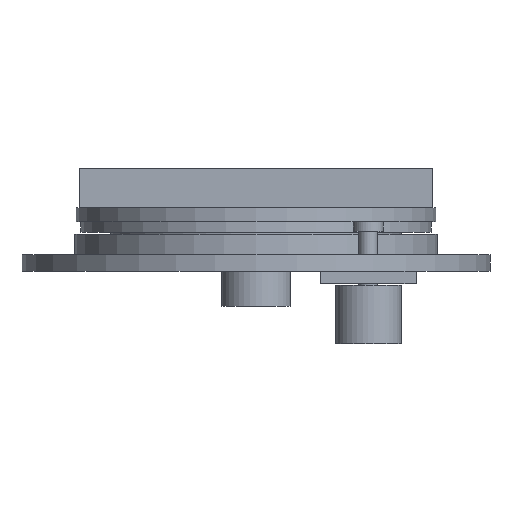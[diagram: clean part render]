
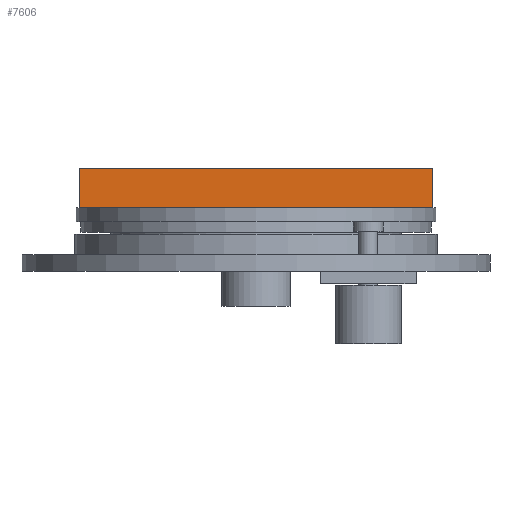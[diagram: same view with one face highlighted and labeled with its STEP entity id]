
A CAD part, front view. The second image highlights one B-rep face of the part: STEP entity #7606.
In plain terms, the highlighted planar face has unit normal (0, -1, 0).
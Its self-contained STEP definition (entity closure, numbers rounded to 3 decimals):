
#7490 = EDGE_CURVE('',#7491,#7493,#7495,.T.);
#7491 = VERTEX_POINT('',#7492);
#7492 = CARTESIAN_POINT('',(-189.,-125.,-21.));
#7493 = VERTEX_POINT('',#7494);
#7494 = CARTESIAN_POINT('',(-189.,-125.,21.));
#7495 = SURFACE_CURVE('',#7496,(#7500,#7512),.PCURVE_S1.);
#7496 = LINE('',#7497,#7498);
#7497 = CARTESIAN_POINT('',(-189.,-125.,-21.));
#7498 = VECTOR('',#7499,1.);
#7499 = DIRECTION('',(0.,0.,1.));
#7500 = PCURVE('',#7501,#7506);
#7501 = PLANE('',#7502);
#7502 = AXIS2_PLACEMENT_3D('',#7503,#7504,#7505);
#7503 = CARTESIAN_POINT('',(-189.,-125.,-21.));
#7504 = DIRECTION('',(1.,0.,0.));
#7505 = DIRECTION('',(0.,0.,1.));
#7506 = DEFINITIONAL_REPRESENTATION('',(#7507),#7511);
#7507 = LINE('',#7508,#7509);
#7508 = CARTESIAN_POINT('',(0.,0.));
#7509 = VECTOR('',#7510,1.);
#7510 = DIRECTION('',(1.,0.));
#7511 = ( GEOMETRIC_REPRESENTATION_CONTEXT(2) 
PARAMETRIC_REPRESENTATION_CONTEXT() REPRESENTATION_CONTEXT('2D SPACE',''
  ) );
#7512 = PCURVE('',#7513,#7518);
#7513 = PLANE('',#7514);
#7514 = AXIS2_PLACEMENT_3D('',#7515,#7516,#7517);
#7515 = CARTESIAN_POINT('',(-189.,-125.,-21.));
#7516 = DIRECTION('',(0.,1.,0.));
#7517 = DIRECTION('',(0.,-0.,1.));
#7518 = DEFINITIONAL_REPRESENTATION('',(#7519),#7523);
#7519 = LINE('',#7520,#7521);
#7520 = CARTESIAN_POINT('',(0.,0.));
#7521 = VECTOR('',#7522,1.);
#7522 = DIRECTION('',(1.,0.));
#7523 = ( GEOMETRIC_REPRESENTATION_CONTEXT(2) 
PARAMETRIC_REPRESENTATION_CONTEXT() REPRESENTATION_CONTEXT('2D SPACE',''
  ) );
#7541 = PLANE('',#7542);
#7542 = AXIS2_PLACEMENT_3D('',#7543,#7544,#7545);
#7543 = CARTESIAN_POINT('',(-189.,-125.,-21.));
#7544 = DIRECTION('',(0.,0.,1.));
#7545 = DIRECTION('',(1.,0.,-0.));
#7595 = PLANE('',#7596);
#7596 = AXIS2_PLACEMENT_3D('',#7597,#7598,#7599);
#7597 = CARTESIAN_POINT('',(-189.,-125.,21.));
#7598 = DIRECTION('',(0.,0.,1.));
#7599 = DIRECTION('',(1.,0.,-0.));
#7606 = ADVANCED_FACE('',(#7607),#7513,.F.);
#7607 = FACE_BOUND('',#7608,.F.);
#7608 = EDGE_LOOP('',(#7609,#7632,#7633,#7656));
#7609 = ORIENTED_EDGE('',*,*,#7610,.F.);
#7610 = EDGE_CURVE('',#7491,#7611,#7613,.T.);
#7611 = VERTEX_POINT('',#7612);
#7612 = CARTESIAN_POINT('',(189.,-125.,-21.));
#7613 = SURFACE_CURVE('',#7614,(#7618,#7625),.PCURVE_S1.);
#7614 = LINE('',#7615,#7616);
#7615 = CARTESIAN_POINT('',(-189.,-125.,-21.));
#7616 = VECTOR('',#7617,1.);
#7617 = DIRECTION('',(1.,0.,0.));
#7618 = PCURVE('',#7513,#7619);
#7619 = DEFINITIONAL_REPRESENTATION('',(#7620),#7624);
#7620 = LINE('',#7621,#7622);
#7621 = CARTESIAN_POINT('',(0.,0.));
#7622 = VECTOR('',#7623,1.);
#7623 = DIRECTION('',(0.,1.));
#7624 = ( GEOMETRIC_REPRESENTATION_CONTEXT(2) 
PARAMETRIC_REPRESENTATION_CONTEXT() REPRESENTATION_CONTEXT('2D SPACE',''
  ) );
#7625 = PCURVE('',#7541,#7626);
#7626 = DEFINITIONAL_REPRESENTATION('',(#7627),#7631);
#7627 = LINE('',#7628,#7629);
#7628 = CARTESIAN_POINT('',(0.,0.));
#7629 = VECTOR('',#7630,1.);
#7630 = DIRECTION('',(1.,0.));
#7631 = ( GEOMETRIC_REPRESENTATION_CONTEXT(2) 
PARAMETRIC_REPRESENTATION_CONTEXT() REPRESENTATION_CONTEXT('2D SPACE',''
  ) );
#7632 = ORIENTED_EDGE('',*,*,#7490,.T.);
#7633 = ORIENTED_EDGE('',*,*,#7634,.T.);
#7634 = EDGE_CURVE('',#7493,#7635,#7637,.T.);
#7635 = VERTEX_POINT('',#7636);
#7636 = CARTESIAN_POINT('',(189.,-125.,21.));
#7637 = SURFACE_CURVE('',#7638,(#7642,#7649),.PCURVE_S1.);
#7638 = LINE('',#7639,#7640);
#7639 = CARTESIAN_POINT('',(-189.,-125.,21.));
#7640 = VECTOR('',#7641,1.);
#7641 = DIRECTION('',(1.,0.,0.));
#7642 = PCURVE('',#7513,#7643);
#7643 = DEFINITIONAL_REPRESENTATION('',(#7644),#7648);
#7644 = LINE('',#7645,#7646);
#7645 = CARTESIAN_POINT('',(42.,0.));
#7646 = VECTOR('',#7647,1.);
#7647 = DIRECTION('',(0.,1.));
#7648 = ( GEOMETRIC_REPRESENTATION_CONTEXT(2) 
PARAMETRIC_REPRESENTATION_CONTEXT() REPRESENTATION_CONTEXT('2D SPACE',''
  ) );
#7649 = PCURVE('',#7595,#7650);
#7650 = DEFINITIONAL_REPRESENTATION('',(#7651),#7655);
#7651 = LINE('',#7652,#7653);
#7652 = CARTESIAN_POINT('',(0.,0.));
#7653 = VECTOR('',#7654,1.);
#7654 = DIRECTION('',(1.,0.));
#7655 = ( GEOMETRIC_REPRESENTATION_CONTEXT(2) 
PARAMETRIC_REPRESENTATION_CONTEXT() REPRESENTATION_CONTEXT('2D SPACE',''
  ) );
#7656 = ORIENTED_EDGE('',*,*,#7657,.F.);
#7657 = EDGE_CURVE('',#7611,#7635,#7658,.T.);
#7658 = SURFACE_CURVE('',#7659,(#7663,#7670),.PCURVE_S1.);
#7659 = LINE('',#7660,#7661);
#7660 = CARTESIAN_POINT('',(189.,-125.,-21.));
#7661 = VECTOR('',#7662,1.);
#7662 = DIRECTION('',(0.,0.,1.));
#7663 = PCURVE('',#7513,#7664);
#7664 = DEFINITIONAL_REPRESENTATION('',(#7665),#7669);
#7665 = LINE('',#7666,#7667);
#7666 = CARTESIAN_POINT('',(0.,378.));
#7667 = VECTOR('',#7668,1.);
#7668 = DIRECTION('',(1.,0.));
#7669 = ( GEOMETRIC_REPRESENTATION_CONTEXT(2) 
PARAMETRIC_REPRESENTATION_CONTEXT() REPRESENTATION_CONTEXT('2D SPACE',''
  ) );
#7670 = PCURVE('',#7671,#7676);
#7671 = PLANE('',#7672);
#7672 = AXIS2_PLACEMENT_3D('',#7673,#7674,#7675);
#7673 = CARTESIAN_POINT('',(189.,-125.,-21.));
#7674 = DIRECTION('',(1.,0.,0.));
#7675 = DIRECTION('',(0.,0.,1.));
#7676 = DEFINITIONAL_REPRESENTATION('',(#7677),#7681);
#7677 = LINE('',#7678,#7679);
#7678 = CARTESIAN_POINT('',(0.,0.));
#7679 = VECTOR('',#7680,1.);
#7680 = DIRECTION('',(1.,0.));
#7681 = ( GEOMETRIC_REPRESENTATION_CONTEXT(2) 
PARAMETRIC_REPRESENTATION_CONTEXT() REPRESENTATION_CONTEXT('2D SPACE',''
  ) );
